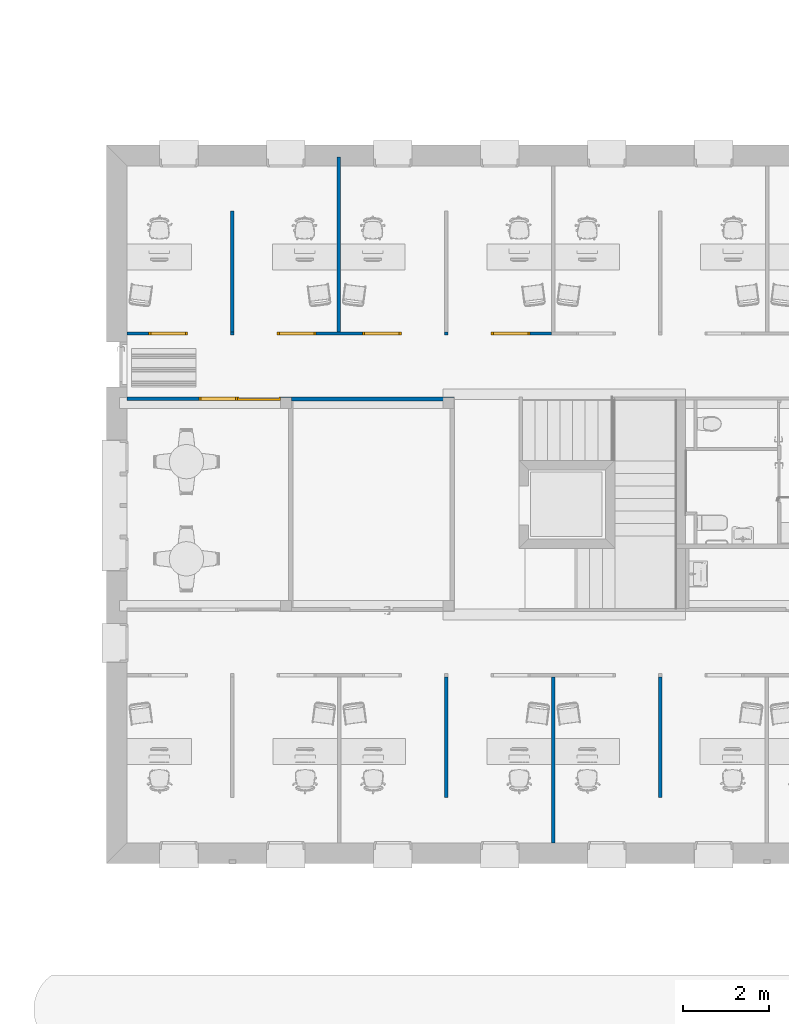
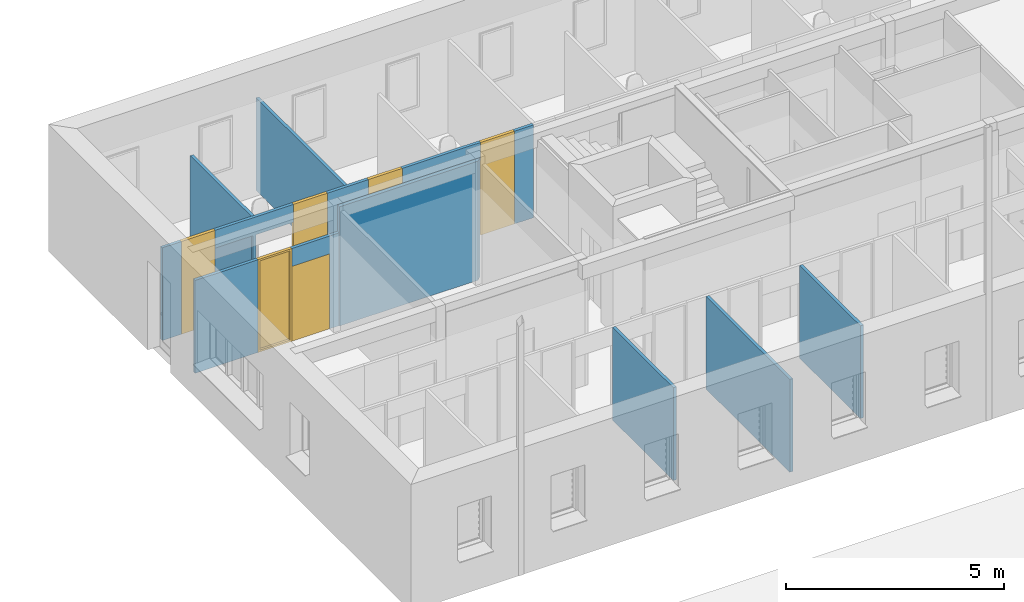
# One storey, part 14 of 91: 8 walls, 5 windows, 1 door, 10 openings.
"""IFC2X3 building model written with IfcOpenShell, lengths in metres."""

from ifc_helpers import new_model, entity, si_unit, converted_unit, derived_unit, money_unit, direction, frame, origin_with_axes, origin_2d_with_axis, place, context, subcontext, project, spatial, polyline, rectangle, outline, extrude, open_shell, faceted_brep, surface_model, source, transform, mapped, material, layer, layer_set, layer_usage, type_object, element, fill, save


model = new_model("IFC2X3")

# Units and contexts
model_context = context("Model", 3, precision=1e-05, world=origin_with_axes(), true_north=direction((0.0, 1.0)))
body_context = subcontext(model_context, "Body", "Model", "MODEL_VIEW")
ifc_project = project(units=[si_unit("LENGTHUNIT", "METRE"), si_unit("AREAUNIT", "SQUARE_METRE"), si_unit("VOLUMEUNIT", "CUBIC_METRE"), converted_unit("PLANEANGLEUNIT", "DEGREE", entity("IfcPlaneAngleMeasure", 0.0174532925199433), si_unit("PLANEANGLEUNIT", "RADIAN"), dimensions=[0, 0, 0, 0, 0, 0, 0]), money_unit("EUR"), converted_unit("TIMEUNIT", "Year", entity("IfcTimeMeasure", 31557600.0), si_unit("TIMEUNIT", "SECOND"), dimensions=[0, 0, 1, 0, 0, 0, 0]), si_unit("MASSUNIT", "GRAM", prefix="KILO"), si_unit("THERMODYNAMICTEMPERATUREUNIT", "DEGREE_CELSIUS"), si_unit("LUMINOUSINTENSITYUNIT", "LUMEN"), si_unit("ENERGYUNIT", "JOULE", prefix="MEGA"), derived_unit("THERMALCONDUCTANCEUNIT", [(si_unit("POWERUNIT", "WATT"), 1), (si_unit("LENGTHUNIT", "METRE"), -1), (si_unit("THERMODYNAMICTEMPERATUREUNIT", "KELVIN"), -1)]), derived_unit("SPECIFICHEATCAPACITYUNIT", [(si_unit("ENERGYUNIT", "JOULE"), 1), (si_unit("MASSUNIT", "GRAM", prefix="KILO"), -1), (si_unit("THERMODYNAMICTEMPERATUREUNIT", "KELVIN"), -1)]), derived_unit("MASSDENSITYUNIT", [(si_unit("MASSUNIT", "GRAM", prefix="KILO"), 1), (si_unit("VOLUMEUNIT", "CUBIC_METRE"), -1)])], contexts=[model_context])

# Site, building, storey
site_placement = place(None, origin_with_axes())
site = spatial("IfcSite", under=ifc_project, at=site_placement, Name="Site", CompositionType="ELEMENT")
building_placement = place(site_placement, origin_with_axes())
building = spatial("IfcBuilding", under=site, at=building_placement, Name="Bâtiment", CompositionType="ELEMENT")
storey_placement = place(building_placement, origin_with_axes())
storey = spatial("IfcBuildingStorey", under=building, at=storey_placement, Name="RDC", CompositionType="ELEMENT", Elevation=0.0)

# Walls
ifc_material_1 = material(Name="*PLAQUE DE PLATRE - CLOISON")
ifc_layer_1 = layer(ifc_material_1, 0.026, ventilated="UNKNOWN")
ifc_material_2 = material(Name="*GENERIQUE - ISOLATION INT")
ifc_layer_2 = layer(ifc_material_2, 0.048, ventilated="UNKNOWN")
ifc_layer_3 = layer(ifc_material_1, 0.026, ventilated="UNKNOWN")
ifc_layer_set_1 = layer_set([ifc_layer_1, ifc_layer_2, ifc_layer_3], Name="*Cloison 98")
ifc_layer_usage_1 = layer_usage(ifc_layer_set_1, "AXIS2", "POSITIVE", 0.0)
wall_type_1 = type_object("IfcWallType", Name="*Cloison 98 100", PredefinedType="NOTDEFINED")
wall_1_placement = place(storey_placement, frame((32.69300800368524, -16.61756236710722, 0.0), z_axis=(0.0, 0.0, 1.0), x_axis=(-1.0, 0.0, 0.0)))
element("IfcWallStandardCase", 1, at=wall_1_placement, inside=storey, type_object=wall_type_1, material=ifc_layer_usage_1, Name="Cloison ép.10 - CF1h", context=body_context, shape_type="SweptSolid", body=[
    extrude(outline(polyline([(0.0, 0.0), (3.777624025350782, 0.0), (3.777624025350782, 0.1000000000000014), (0.1000000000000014, 0.1000000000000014), (0.0, 0.0)])), origin_with_axes(), (0.0, 0.0, 1.0), 3.34),
])
ifc_layer_4 = layer(ifc_material_1, 0.08, ventilated="UNKNOWN")
ifc_layer_set_2 = layer_set([ifc_layer_4], Name="*PLAQUE DE PLATRE - CLOISON 0.08")
ifc_layer_usage_2 = layer_usage(ifc_layer_set_2, "AXIS2", "NEGATIVE", 0.0)
wall_type_2 = type_object("IfcWallType", Name="*PLAQUE DE PLATRE - CLOISON 80", PredefinedType="NOTDEFINED")
wall_2_placement = place(storey_placement, frame((37.50299999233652, -23.11056215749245, 0.0), z_axis=(0.0, 0.0, 1.0), x_axis=(0.0, -1.0, 0.0)))
element("IfcWallStandardCase", 2, at=wall_2_placement, inside=storey, type_object=wall_type_2, material=ifc_layer_usage_2, Name="Cloison modulaire", context=body_context, shape_type="SweptSolid", body=[
    extrude(outline(polyline([(0.0, -0.0799999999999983), (2.796999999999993, -0.0799999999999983), (2.796999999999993, 0.0), (0.0, 0.0), (0.0, -0.0799999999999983)])), origin_with_axes(), (0.0, 0.0, 1.0), 2.6),
])
ifc_layer_usage_3 = layer_usage(ifc_layer_set_2, "AXIS2", "POSITIVE", 0.0)
wall_3_placement = place(storey_placement, frame((30.04999999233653, -15.11356213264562, 0.0), z_axis=(0.0, 0.0, 1.0), x_axis=(0.0, 1.0, 0.0)))
element("IfcWallStandardCase", 3, at=wall_3_placement, inside=storey, type_object=wall_type_2, material=ifc_layer_usage_3, Name="Cloison modulaire", context=body_context, shape_type="SweptSolid", body=[
    extrude(outline(polyline([(0.0, 0.0), (4.056000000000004, 0.0), (4.056000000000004, 0.0799999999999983), (0.0, 0.0799999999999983), (0.0, 0.0)])), origin_with_axes(), (0.0, 0.0, 1.0), 2.6),
])
ifc_layer_usage_4 = layer_usage(ifc_layer_set_2, "AXIS2", "POSITIVE", 0.0)
wall_4_placement = place(storey_placement, frame((27.58299999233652, -15.11356213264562, 0.0), z_axis=(0.0, 0.0, 1.0), x_axis=(0.0, 1.0, 0.0)))
element("IfcWallStandardCase", 4, at=wall_4_placement, inside=storey, type_object=wall_type_2, material=ifc_layer_usage_4, Name="Cloison modulaire", context=body_context, shape_type="SweptSolid", body=[
    extrude(outline(polyline([(0.0, 0.0), (2.806000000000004, 0.0), (2.806000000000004, 0.0799999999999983), (0.0, 0.0799999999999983), (0.0, 0.0)])), origin_with_axes(), (0.0, 0.0, 1.0), 2.6),
])
ifc_layer_usage_5 = layer_usage(ifc_layer_set_2, "AXIS2", "NEGATIVE", 0.0)
wall_5_placement = place(storey_placement, frame((35.02299999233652, -23.11056215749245, 0.0), z_axis=(0.0, 0.0, 1.0), x_axis=(0.0, -1.0, 0.0)))
element("IfcWallStandardCase", 5, at=wall_5_placement, inside=storey, type_object=wall_type_2, material=ifc_layer_usage_5, Name="Cloison modulaire", context=body_context, shape_type="SweptSolid", body=[
    extrude(outline(polyline([(0.0, -0.0799999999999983), (3.846999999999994, -0.0799999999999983), (3.846999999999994, 0.0), (0.0, 0.0), (0.0, -0.0799999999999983)])), origin_with_axes(), (0.0, 0.0, 1.0), 2.6),
])

# Wall, openings, windows
ifc_layer_usage_6 = layer_usage(ifc_layer_set_2, "AXIS2", "POSITIVE", 0.0)
wall_6_placement = place(storey_placement, frame((25.09999999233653, -15.18656213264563, 0.0), z_axis=(0.0, 0.0, 1.0), x_axis=(1.0, 0.0, 0.0)))
wall_6 = element("IfcWallStandardCase", 6, at=wall_6_placement, inside=storey, type_object=wall_type_2, material=ifc_layer_usage_6, Name="Cloison modulaire", context=body_context, shape_type="SweptSolid", body=[
    extrude(outline(polyline([(0.0, 0.0), (9.843000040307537, 0.0), (9.843000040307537, 0.08000000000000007), (0.0, 0.08000000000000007), (0.0, 0.0)])), origin_with_axes(), (0.0, 0.0, 1.0), 2.6),
])
opening_1_placement = place(wall_6_placement, frame((0.9529999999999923, 0.0, 0.0), z_axis=(0.0, 0.0, 1.0), x_axis=(1.0, 0.0, 0.0)))
opening_1 = element("IfcOpeningElement", 7, at=opening_1_placement, cuts=wall_6, Name="CH.1+vitrophanie", context=body_context, shape_type="SweptSolid", body=[
    extrude(rectangle(XDim=0.8999999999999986, YDim=2.6, at=origin_2d_with_axis()), frame((0.0, 0.08000000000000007, 1.3), z_axis=(0.0, 1.0, 0.0), x_axis=(1.0, 0.0, 0.0)), (0.0, 0.0, -1.0), 0.24),
])
opening_2_placement = place(wall_6_placement, frame((5.912999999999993, 0.0, 0.0), z_axis=(0.0, 0.0, 1.0), x_axis=(1.0, 0.0, 0.0)))
opening_2 = element("IfcOpeningElement", 8, at=opening_2_placement, cuts=wall_6, Name="CH.1+vitrophanie", context=body_context, shape_type="SweptSolid", body=[
    extrude(rectangle(XDim=0.8999999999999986, YDim=2.6, at=origin_2d_with_axis()), frame((0.0, 0.08000000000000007, 1.3), z_axis=(0.0, 1.0, 0.0), x_axis=(1.0, 0.0, 0.0)), (0.0, 0.0, -1.0), 0.24),
])
opening_3_placement = place(wall_6_placement, frame((8.892999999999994, 0.0, 0.0), z_axis=(0.0, 0.0, 1.0), x_axis=(1.0, 0.0, 0.0)))
opening_3 = element("IfcOpeningElement", 9, at=opening_3_placement, cuts=wall_6, Name="CH.1+vitrophanie", context=body_context, shape_type="SweptSolid", body=[
    extrude(rectangle(XDim=0.9000000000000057, YDim=2.6, at=origin_2d_with_axis()), frame((0.0, 0.08000000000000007, 1.3), z_axis=(0.0, 1.0, 0.0), x_axis=(1.0, 0.0, 0.0)), (0.0, 0.0, -1.0), 0.24),
])
opening_4_placement = place(wall_6_placement, frame((3.932999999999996, 0.0, 0.0), z_axis=(0.0, 0.0, 1.0), x_axis=(1.0, 0.0, 0.0)))
opening_4 = element("IfcOpeningElement", 10, at=opening_4_placement, cuts=wall_6, Name="CH.1+vitrophanie", context=body_context, shape_type="SweptSolid", body=[
    extrude(rectangle(XDim=0.8999999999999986, YDim=2.6, at=origin_2d_with_axis()), frame((0.0, 0.08000000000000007, 1.3), z_axis=(0.0, 1.0, 0.0), x_axis=(1.0, 0.0, 0.0)), (0.0, 0.0, -1.0), 0.24),
])
opening_5_placement = place(wall_6_placement, frame((1.902999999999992, 0.0, 0.0), z_axis=(0.0, 0.0, 1.0), x_axis=(1.0, 0.0, 0.0)))
element("IfcOpeningElement", 11, at=opening_5_placement, cuts=wall_6, Name="libre", context=body_context, shape_type="SweptSolid", body=[
    extrude(rectangle(XDim=1.0, YDim=2.1, at=origin_2d_with_axis()), frame((0.0, 0.0, 1.05), z_axis=(0.0, 1.0, 0.0), x_axis=(1.0, 0.0, 0.0)), (0.0, 0.0, -1.0), 0.08),
    extrude(rectangle(XDim=1.0, YDim=2.1, at=origin_2d_with_axis()), frame((0.0, 0.0, 1.05), z_axis=(0.0, -1.0, 0.0), x_axis=(1.0, 0.0, 0.0)), (0.0, 0.0, -1.0), 0.08),
])
opening_6_placement = place(wall_6_placement, frame((2.982999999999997, 0.0, 0.0), z_axis=(0.0, 0.0, 1.0), x_axis=(1.0, 0.0, 0.0)))
element("IfcOpeningElement", 12, at=opening_6_placement, cuts=wall_6, Name="libre", context=body_context, shape_type="SweptSolid", body=[
    extrude(rectangle(XDim=1.0, YDim=2.1, at=origin_2d_with_axis()), frame((0.0, 0.0, 1.05), z_axis=(0.0, 1.0, 0.0), x_axis=(1.0, 0.0, 0.0)), (0.0, 0.0, -1.0), 0.08),
    extrude(rectangle(XDim=1.0, YDim=2.1, at=origin_2d_with_axis()), frame((0.0, 0.0, 1.05), z_axis=(0.0, -1.0, 0.0), x_axis=(1.0, 0.0, 0.0)), (0.0, 0.0, -1.0), 0.08),
])
opening_7_placement = place(wall_6_placement, frame((7.942999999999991, 0.0, 0.0), z_axis=(0.0, 0.0, 1.0), x_axis=(1.0, 0.0, 0.0)))
element("IfcOpeningElement", 13, at=opening_7_placement, cuts=wall_6, Name="libre", context=body_context, shape_type="SweptSolid", body=[
    extrude(rectangle(XDim=1.0, YDim=2.1, at=origin_2d_with_axis()), frame((0.0, 0.0, 1.05), z_axis=(0.0, 1.0, 0.0), x_axis=(1.0, 0.0, 0.0)), (0.0, 0.0, -1.0), 0.08),
    extrude(rectangle(XDim=1.0, YDim=2.1, at=origin_2d_with_axis()), frame((0.0, 0.0, 1.05), z_axis=(0.0, -1.0, 0.0), x_axis=(1.0, 0.0, 0.0)), (0.0, 0.0, -1.0), 0.08),
])
opening_8_placement = place(wall_6_placement, frame((6.862999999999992, 0.0, 0.0), z_axis=(0.0, 0.0, 1.0), x_axis=(1.0, 0.0, 0.0)))
element("IfcOpeningElement", 14, at=opening_8_placement, cuts=wall_6, Name="libre", context=body_context, shape_type="SweptSolid", body=[
    extrude(rectangle(XDim=0.9999999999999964, YDim=2.1, at=origin_2d_with_axis()), frame((0.0, 0.0, 1.05), z_axis=(0.0, 1.0, 0.0), x_axis=(1.0, 0.0, 0.0)), (0.0, 0.0, -1.0), 0.08),
    extrude(rectangle(XDim=0.9999999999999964, YDim=2.1, at=origin_2d_with_axis()), frame((0.0, 0.0, 1.05), z_axis=(0.0, -1.0, 0.0), x_axis=(1.0, 0.0, 0.0)), (0.0, 0.0, -1.0), 0.08),
])
window_style = type_object("IfcWindowStyle", Name="Fenêtre 27", ConstructionType="NOTDEFINED", OperationType="SINGLE_PANEL", ParameterTakesPrecedence=False, Sizeable=False)
shared_shape_1 = source(origin_with_axes(), body_context, "Body", "SurfaceModel", [
    faceted_brep([(0.4, -0.08000000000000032, 2.55), (0.45, -0.08000000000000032, 2.6), (0.45, 0.0, 2.6), (0.4, 0.0, 2.55), (0.4, -0.08, 0.05), (0.45, -0.08, 0.0), (0.45, 0.0, 0.0), (0.4, 0.0, 0.05)], [[[0, 1, 2, 3]], [[0, 4, 5, 1]], [[1, 5, 6, 2]], [[3, 2, 6, 7]], [[4, 0, 3, 7]], [[5, 4, 7, 6]]]),
    faceted_brep([(-0.4, -0.08, 0.05), (-0.45, -0.08, 0.0), (-0.45, 0.0, 0.0), (-0.4, 0.0, 0.05), (-0.4, -0.08000000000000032, 2.55), (-0.45, -0.08000000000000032, 2.6), (-0.45, 0.0, 2.6), (-0.4, 0.0, 2.55)], [[[0, 1, 2, 3]], [[0, 4, 5, 1]], [[1, 5, 6, 2]], [[3, 2, 6, 7]], [[4, 0, 3, 7]], [[5, 4, 7, 6]]]),
    faceted_brep([(0.4, -0.08, 0.05), (0.45, -0.08, 0.0), (0.45, 0.0, 0.0), (0.4, 0.0, 0.05), (-0.4, -0.08, 0.05), (-0.45, -0.08, 0.0), (-0.45, 0.0, 0.0), (-0.4, 0.0, 0.05)], [[[0, 1, 2, 3]], [[0, 4, 5, 1]], [[1, 5, 6, 2]], [[3, 2, 6, 7]], [[4, 0, 3, 7]], [[5, 4, 7, 6]]]),
    faceted_brep([(-0.4, -0.08000000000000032, 2.55), (-0.45, -0.08000000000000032, 2.6), (-0.45, 0.0, 2.6), (-0.4, 0.0, 2.55), (0.4, -0.08000000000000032, 2.55), (0.45, -0.08000000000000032, 2.6), (0.45, 0.0, 2.6), (0.4, 0.0, 2.55)], [[[0, 1, 2, 3]], [[0, 4, 5, 1]], [[1, 5, 6, 2]], [[3, 2, 6, 7]], [[4, 0, 3, 7]], [[5, 4, 7, 6]]]),
    surface_model("IfcShellBasedSurfaceModel", [(0.4, -0.02, 0.05000000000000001), (0.4, -0.02000000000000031, 2.55), (-0.4, -0.02000000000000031, 2.55), (-0.4, -0.02, 0.05000000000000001)], [open_shell([[[0, 1, 2, 3]]])]),
    surface_model("IfcShellBasedSurfaceModel", [(0.4, 0.0, 0.05000000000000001), (-0.4, 0.0, 0.05000000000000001), (-0.4, 0.0, 2.55), (0.4, 0.0, 2.55)], [open_shell([[[0, 1, 2, 3]]])]),
])
window_1_placement = place(opening_1_placement, frame((0.4499999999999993, 0.0, 0.0), z_axis=(0.0, 0.0, 1.0), x_axis=(-1.0, 0.0, 0.0)))
window_1 = element("IfcWindow", 15, at=window_1_placement, inside=storey, type_object=window_style, Name="CH.1+vitrophanie", OverallHeight=2.6, OverallWidth=0.9, context=body_context, shape_type="MappedRepresentation", body=[
    mapped(shared_shape_1, transform((0.4499999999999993, 0.0, 0.0))),
])
fill(opening_1, window_1)
window_2_placement = place(opening_2_placement, frame((0.4499999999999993, 0.0, 0.0), z_axis=(0.0, 0.0, 1.0), x_axis=(-1.0, 0.0, 0.0)))
window_2 = element("IfcWindow", 16, at=window_2_placement, inside=storey, type_object=window_style, Name="CH.1+vitrophanie", OverallHeight=2.6, OverallWidth=0.9, context=body_context, shape_type="MappedRepresentation", body=[
    mapped(shared_shape_1, transform((0.4499999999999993, 0.0, 0.0))),
])
fill(opening_2, window_2)
window_3_placement = place(opening_3_placement, frame((0.4500000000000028, 0.0, 0.0), z_axis=(0.0, 0.0, 1.0), x_axis=(-1.0, 0.0, 0.0)))
window_3 = element("IfcWindow", 17, at=window_3_placement, inside=storey, type_object=window_style, Name="CH.1+vitrophanie", OverallHeight=2.6, OverallWidth=0.9, context=body_context, shape_type="MappedRepresentation", body=[
    mapped(shared_shape_1, transform((0.4500000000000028, 0.0, 0.0))),
])
fill(opening_3, window_3)
window_4_placement = place(opening_4_placement, frame((0.4499999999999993, 0.0, 0.0), z_axis=(0.0, 0.0, 1.0), x_axis=(-1.0, 0.0, 0.0)))
window_4 = element("IfcWindow", 18, at=window_4_placement, inside=storey, type_object=window_style, Name="CH.1+vitrophanie", OverallHeight=2.6, OverallWidth=0.9, context=body_context, shape_type="MappedRepresentation", body=[
    mapped(shared_shape_1, transform((0.4499999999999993, 0.0, 0.0))),
])
fill(opening_4, window_4)

# Wall
ifc_layer_usage_7 = layer_usage(ifc_layer_set_2, "AXIS2", "NEGATIVE", 0.0)
wall_7_placement = place(storey_placement, frame((32.54299999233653, -23.11056215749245, 0.0), z_axis=(0.0, 0.0, 1.0), x_axis=(0.0, -1.0, 0.0)))
element("IfcWallStandardCase", 19, at=wall_7_placement, inside=storey, type_object=wall_type_2, material=ifc_layer_usage_7, Name="Cloison modulaire", context=body_context, shape_type="SweptSolid", body=[
    extrude(outline(polyline([(0.0, -0.0799999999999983), (2.796999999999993, -0.0799999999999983), (2.796999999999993, 0.0), (0.0, 0.0), (0.0, -0.0799999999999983)])), origin_with_axes(), (0.0, 0.0, 1.0), 2.6),
])

# Wall, openings, window, door
ifc_layer_usage_8 = layer_usage(ifc_layer_set_2, "AXIS2", "POSITIVE", 0.0)
wall_8_placement = place(storey_placement, frame((28.91538397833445, -16.61756236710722, 0.0), z_axis=(0.0, 0.0, 1.0), x_axis=(-1.0, 0.0, 0.0)))
wall_8 = element("IfcWallStandardCase", 20, at=wall_8_placement, inside=storey, type_object=wall_type_2, material=ifc_layer_usage_8, Name="Cloison modulaire", context=body_context, shape_type="SweptSolid", body=[
    extrude(outline(polyline([(0.0, 0.0), (3.815383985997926, 0.0), (3.815383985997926, 0.0799999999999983), (0.0, 0.0799999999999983), (0.0, 0.0)])), origin_with_axes(), (0.0, 0.0, 1.0), 2.6),
])
opening_9_placement = place(wall_8_placement, frame((1.699999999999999, 0.0, 0.0), z_axis=(0.0, 0.0, 1.0), x_axis=(1.0, 0.0, 0.0)))
opening_9 = element("IfcOpeningElement", 21, at=opening_9_placement, cuts=wall_8, Name="CH.1+vitrophanie", context=body_context, shape_type="SweptSolid", body=[
    extrude(rectangle(XDim=0.8999999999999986, YDim=2.6, at=origin_2d_with_axis()), frame((0.0, 0.08000000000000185, 1.3), z_axis=(0.0, -1.0, 0.0), x_axis=(-1.0, 0.0, 0.0)), (0.0, 0.0, 1.0), 0.24),
])
opening_10_placement = place(wall_8_placement, frame((0.75, 0.0, 0.0), z_axis=(0.0, 0.0, 1.0), x_axis=(1.0, 0.0, 0.0)))
opening_10 = element("IfcOpeningElement", 22, at=opening_10_placement, cuts=wall_8, Name="Pi.01", context=body_context, shape_type="SweptSolid", body=[
    extrude(rectangle(XDim=1.0, YDim=2.1, at=origin_2d_with_axis()), frame((0.0, -0.0799999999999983, 1.05), z_axis=(0.0, -1.0, 0.0), x_axis=(-1.0, 0.0, 0.0)), (0.0, 0.0, -1.0), 0.24),
])
shared_shape_2 = source(origin_with_axes(), body_context, "Body", "SurfaceModel", [
    faceted_brep([(-0.4, -0.08000000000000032, 2.55), (-0.4, 0.0, 2.55), (-0.45, 0.0, 2.6), (-0.45, -0.08000000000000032, 2.6), (-0.4, -0.08, 0.05), (-0.4, 0.0, 0.05), (-0.45, 0.0, 0.0), (-0.45, -0.08, 0.0)], [[[0, 1, 2, 3]], [[4, 5, 1, 0]], [[1, 5, 6, 2]], [[3, 2, 6, 7]], [[0, 3, 7, 4]], [[7, 6, 5, 4]]]),
    faceted_brep([(0.4, -0.08, 0.05), (0.4, 0.0, 0.05), (0.45, 0.0, 0.0), (0.45, -0.08, 0.0), (0.4, -0.08000000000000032, 2.55), (0.4, 0.0, 2.55), (0.45, 0.0, 2.6), (0.45, -0.08000000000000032, 2.6)], [[[0, 1, 2, 3]], [[4, 5, 1, 0]], [[1, 5, 6, 2]], [[3, 2, 6, 7]], [[0, 3, 7, 4]], [[7, 6, 5, 4]]]),
    faceted_brep([(-0.4, -0.08, 0.05), (-0.4, 0.0, 0.05), (-0.45, 0.0, 0.0), (-0.45, -0.08, 0.0), (0.4, -0.08, 0.05), (0.4, 0.0, 0.05), (0.45, 0.0, 0.0), (0.45, -0.08, 0.0)], [[[0, 1, 2, 3]], [[4, 5, 1, 0]], [[1, 5, 6, 2]], [[3, 2, 6, 7]], [[0, 3, 7, 4]], [[7, 6, 5, 4]]]),
    faceted_brep([(0.4, -0.08000000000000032, 2.55), (0.4, 0.0, 2.55), (0.45, 0.0, 2.6), (0.45, -0.08000000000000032, 2.6), (-0.4, -0.08000000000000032, 2.55), (-0.4, 0.0, 2.55), (-0.45, 0.0, 2.6), (-0.45, -0.08000000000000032, 2.6)], [[[0, 1, 2, 3]], [[4, 5, 1, 0]], [[1, 5, 6, 2]], [[3, 2, 6, 7]], [[0, 3, 7, 4]], [[7, 6, 5, 4]]]),
    surface_model("IfcShellBasedSurfaceModel", [(-0.4, -0.02, 0.05000000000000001), (0.4, -0.02, 0.05000000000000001), (0.4, -0.02000000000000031, 2.55), (-0.4, -0.02000000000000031, 2.55)], [open_shell([[[0, 1, 2, 3]]])]),
    surface_model("IfcShellBasedSurfaceModel", [(-0.4, 0.0, 0.05000000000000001), (-0.4, 0.0, 2.55), (0.4, 0.0, 2.55), (0.4, 0.0, 0.05000000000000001)], [open_shell([[[0, 1, 2, 3]]])]),
])
window_5_placement = place(opening_9_placement, frame((0.4499999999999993, 0.0, 0.0), z_axis=(0.0, 0.0, 1.0), x_axis=(-1.0, 0.0, 0.0)))
window_5 = element("IfcWindow", 23, at=window_5_placement, inside=storey, type_object=window_style, Name="CH.1+vitrophanie", OverallHeight=2.6, OverallWidth=0.9, context=body_context, shape_type="MappedRepresentation", body=[
    mapped(shared_shape_2, transform((0.4499999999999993, 0.0, 0.0))),
])
fill(opening_9, window_5)
door_style = type_object("IfcDoorStyle", Name="Porte 27", ConstructionType="NOTDEFINED", OperationType="SINGLE_SWING_LEFT", ParameterTakesPrecedence=False, Sizeable=False)
shared_shape_3 = source(origin_with_axes(), body_context, "Body", "Brep", [
    faceted_brep([(0.465, -0.04, 0.0), (0.465, -0.08, 0.0), (0.465, -0.08, 2.04), (0.465, -0.04, 2.04), (0.495, -0.04, 0.0), (0.495, 0.0, 0.0), (0.5, 0.0, 0.0), (0.5, -0.08, 0.0), (0.5, -0.08, 2.04), (0.495, -0.04, 2.04), (0.5, 0.0, 2.04), (0.495, 0.0, 2.04)], [[[0, 1, 2, 3]], [[4, 5, 6, 7, 1, 0]], [[1, 7, 8, 2]], [[9, 3, 2, 8, 10, 11]], [[9, 4, 0, 3]], [[11, 5, 4, 9]], [[11, 10, 6, 5]], [[6, 10, 8, 7]]]),
    faceted_brep([(-0.495, -0.04, 2.04), (-0.495, 0.0, 2.04), (-0.5, 0.0, 2.04), (-0.5, -0.08, 2.04), (-0.465, -0.08, 2.04), (-0.465, -0.04, 2.04), (-0.495, -0.04, 0.0), (-0.495, 0.0, 0.0), (-0.5, 0.0, 0.0), (-0.5, -0.08, 0.0), (-0.465, -0.08, 0.0), (-0.465, -0.04, 0.0)], [[[0, 1, 2, 3, 4, 5]], [[0, 6, 7, 1]], [[7, 8, 2, 1]], [[2, 8, 9, 3]], [[3, 9, 10, 4]], [[5, 4, 10, 11]], [[5, 11, 6, 0]], [[6, 11, 10, 9, 8, 7]]]),
    faceted_brep([(0.495, 0.0, 2.07), (-0.495, 0.0, 2.07), (-0.495, 0.0, 2.04), (-0.5, 0.0, 2.04), (-0.5, 0.0, 2.1), (0.5, 0.0, 2.1), (0.5, 0.0, 2.04), (0.495, 0.0, 2.04), (0.495, -0.04, 2.07), (-0.495, -0.04, 2.07), (-0.495, -0.04, 2.04), (-0.465, -0.04, 2.04), (-0.465, -0.08, 2.04), (-0.5, -0.08, 2.04), (-0.5, -0.08, 2.1), (0.5, -0.08, 2.1), (0.5, -0.08, 2.04), (0.495, -0.04, 2.04), (0.465, -0.08, 2.04), (0.465, -0.04, 2.04)], [[[0, 1, 2, 3, 4, 5, 6, 7]], [[0, 8, 9, 1]], [[1, 9, 10, 2]], [[10, 11, 12, 13, 3, 2]], [[4, 3, 13, 14]], [[5, 4, 14, 15]], [[6, 5, 15, 16]], [[17, 7, 6, 16, 18, 19]], [[7, 17, 8, 0]], [[10, 9, 8, 17, 19, 11]], [[19, 18, 12, 11]], [[12, 18, 16, 15, 14, 13]]]),
    faceted_brep([(-0.495, 0.0, 0.0), (0.495, 0.0, 0.0), (0.495, -0.04, 0.0), (-0.495, -0.04, 0.0), (-0.495, 0.0, 2.07), (0.495, 0.0, 2.07), (0.495, -0.04000000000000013, 2.07), (-0.495, -0.04000000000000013, 2.07)], [[[0, 1, 2, 3]], [[0, 4, 5, 1]], [[1, 5, 6, 2]], [[3, 2, 6, 7]], [[4, 0, 3, 7]], [[5, 4, 7, 6]]]),
])
door_placement = place(opening_10_placement, frame((-0.5, 0.0, 0.0), z_axis=(0.0, 0.0, 1.0), x_axis=(1.0, 0.0, 0.0)))
door = element("IfcDoor", 24, at=door_placement, inside=storey, type_object=door_style, Name="Pi.01", OverallHeight=2.1, OverallWidth=1.0, context=body_context, shape_type="MappedRepresentation", body=[
    mapped(shared_shape_3, transform((0.5, 0.0799999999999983, 0.0))),
])
fill(opening_10, door)

save(model, "model.ifc")
